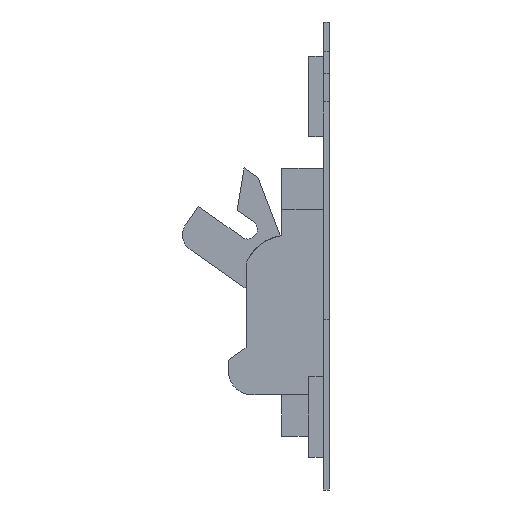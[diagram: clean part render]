
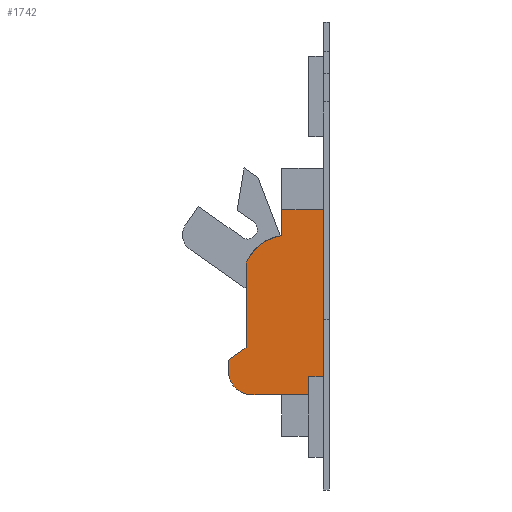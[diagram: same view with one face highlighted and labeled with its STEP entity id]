
A CAD part, left-side view. The second image highlights one B-rep face of the part: STEP entity #1742.
In plain terms, the highlighted planar face has unit normal (-1, 0, 0).
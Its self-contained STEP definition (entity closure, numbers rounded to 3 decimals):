
#11 = DIRECTION ( 'NONE',  ( 0., 0., -1. ) ) ;
#22 = DIRECTION ( 'NONE',  ( 0., 0., -1. ) ) ;
#23 = DIRECTION ( 'NONE',  ( 1., 0., 0. ) ) ;
#26 = DIRECTION ( 'NONE',  ( 0., -1., 0. ) ) ;
#31 = CARTESIAN_POINT ( 'NONE',  ( -13.5, 13., -37. ) ) ;
#35 = DIRECTION ( 'NONE',  ( 0., 0., 1. ) ) ;
#59 = DIRECTION ( 'NONE',  ( 1., 0., 0. ) ) ;
#98 = DIRECTION ( 'NONE',  ( 0., 1., 0. ) ) ;
#117 = CARTESIAN_POINT ( 'NONE',  ( -13.5, 13., -33. ) ) ;
#120 = CARTESIAN_POINT ( 'NONE',  ( -13.5, 1., -37. ) ) ;
#133 = CARTESIAN_POINT ( 'NONE',  ( -13.5, 1., -6. ) ) ;
#152 = CARTESIAN_POINT ( 'NONE',  ( -13.5, 6.849, -18.015 ) ) ;
#163 = CARTESIAN_POINT ( 'NONE',  ( -13.5, 8., -6. ) ) ;
#217 = CARTESIAN_POINT ( 'NONE',  ( -13.5, 14., -14.9 ) ) ;
#218 = DIRECTION ( 'NONE',  ( 0., 0., -1. ) ) ;
#263 = DIRECTION ( 'NONE',  ( 0., 0., 1. ) ) ;
#327 = CARTESIAN_POINT ( 'NONE',  ( -13.5, 17., -31.201 ) ) ;
#340 = DIRECTION ( 'NONE',  ( 0., 0., 1. ) ) ;
#400 = CARTESIAN_POINT ( 'NONE',  ( -13.5, 14., -29.1 ) ) ;
#401 = DIRECTION ( 'NONE',  ( 0., -0.819, 0.574 ) ) ;
#532 = PLANE ( 'NONE',  #901 ) ;
#533 = CARTESIAN_POINT ( 'NONE',  ( -13.5, 6.849, -18.015 ) ) ;
#538 = DIRECTION ( 'NONE',  ( 1., 0., 0. ) ) ;
#539 = DIRECTION ( 'NONE',  ( 0., 0., -1. ) ) ;
#647 = EDGE_CURVE ( 'NONE', #2182, #2163, #1253, .T. ) ;
#673 = EDGE_CURVE ( 'NONE', #1981, #2161, #1387, .T. ) ;
#685 = EDGE_CURVE ( 'NONE', #2151, #1981, #1601, .T. ) ;
#726 = EDGE_CURVE ( 'NONE', #2267, #2203, #1381, .T. ) ;
#747 = EDGE_CURVE ( 'NONE', #2203, #2151, #1694, .T. ) ;
#766 = EDGE_CURVE ( 'NONE', #2069, #2182, #1495, .T. ) ;
#772 = EDGE_CURVE ( 'NONE', #2163, #2267, #1273, .T. ) ;
#798 = EDGE_CURVE ( 'NONE', #2161, #2172, #1287, .T. ) ;
#825 = EDGE_CURVE ( 'NONE', #2172, #2069, #1708, .T. ) ;
#848 = AXIS2_PLACEMENT_3D ( 'NONE', #152, #23, #22 ) ;
#853 = AXIS2_PLACEMENT_3D ( 'NONE', #117, #59, #11 ) ;
#901 = AXIS2_PLACEMENT_3D ( 'NONE', #533, #538, #539 ) ;
#959 = CARTESIAN_POINT ( 'NONE',  ( -13.5, 1., -37. ) ) ;
#974 = CARTESIAN_POINT ( 'NONE',  ( -13.5, 13., -37. ) ) ;
#976 = CARTESIAN_POINT ( 'NONE',  ( -13.5, 17., -33. ) ) ;
#979 = CARTESIAN_POINT ( 'NONE',  ( -13.5, 17., -31.201 ) ) ;
#980 = CARTESIAN_POINT ( 'NONE',  ( -13.5, 8., -10.3 ) ) ;
#984 = CARTESIAN_POINT ( 'NONE',  ( -13.5, 14., -14.9 ) ) ;
#991 = CARTESIAN_POINT ( 'NONE',  ( -13.5, 1., -6. ) ) ;
#1008 = CARTESIAN_POINT ( 'NONE',  ( -13.5, 8., -6. ) ) ;
#1159 = CARTESIAN_POINT ( 'NONE',  ( -13.5, 14., -29.1 ) ) ;
#1253 = CIRCLE ( 'NONE', #848, 7.8 ) ;
#1273 = LINE ( 'NONE', #163, #1302 ) ;
#1287 = LINE ( 'NONE', #327, #1541 ) ;
#1302 = VECTOR ( 'NONE', #263, 1000. ) ;
#1364 = VECTOR ( 'NONE', #98, 1000. ) ;
#1381 = LINE ( 'NONE', #133, #1409 ) ;
#1387 = CIRCLE ( 'NONE', #853, 4. ) ;
#1409 = VECTOR ( 'NONE', #26, 1000. ) ;
#1471 = FACE_OUTER_BOUND ( 'NONE', #2237, .T. ) ;
#1489 = VECTOR ( 'NONE', #218, 1000. ) ;
#1492 = VECTOR ( 'NONE', #401, 1000. ) ;
#1495 = LINE ( 'NONE', #217, #1535 ) ;
#1535 = VECTOR ( 'NONE', #35, 1000. ) ;
#1541 = VECTOR ( 'NONE', #340, 1000. ) ;
#1601 = LINE ( 'NONE', #31, #1364 ) ;
#1694 = LINE ( 'NONE', #120, #1489 ) ;
#1708 = LINE ( 'NONE', #400, #1492 ) ;
#1742 = ADVANCED_FACE ( 'NONE', ( #1471 ), #532, .F. ) ;
#1812 = ORIENTED_EDGE ( 'NONE', *, *, #685, .F. ) ;
#1815 = ORIENTED_EDGE ( 'NONE', *, *, #825, .F. ) ;
#1912 = ORIENTED_EDGE ( 'NONE', *, *, #798, .F. ) ;
#1930 = ORIENTED_EDGE ( 'NONE', *, *, #747, .F. ) ;
#1950 = ORIENTED_EDGE ( 'NONE', *, *, #772, .F. ) ;
#1972 = ORIENTED_EDGE ( 'NONE', *, *, #726, .F. ) ;
#1981 = VERTEX_POINT ( 'NONE', #974 ) ;
#1991 = ORIENTED_EDGE ( 'NONE', *, *, #647, .F. ) ;
#2069 = VERTEX_POINT ( 'NONE', #1159 ) ;
#2151 = VERTEX_POINT ( 'NONE', #959 ) ;
#2161 = VERTEX_POINT ( 'NONE', #976 ) ;
#2163 = VERTEX_POINT ( 'NONE', #980 ) ;
#2172 = VERTEX_POINT ( 'NONE', #979 ) ;
#2182 = VERTEX_POINT ( 'NONE', #984 ) ;
#2203 = VERTEX_POINT ( 'NONE', #991 ) ;
#2237 = EDGE_LOOP ( 'NONE', ( #1972, #1950, #1991, #2265, #1815, #1912, #2268, #1812, #1930 ) ) ;
#2265 = ORIENTED_EDGE ( 'NONE', *, *, #766, .F. ) ;
#2267 = VERTEX_POINT ( 'NONE', #1008 ) ;
#2268 = ORIENTED_EDGE ( 'NONE', *, *, #673, .F. ) ;
